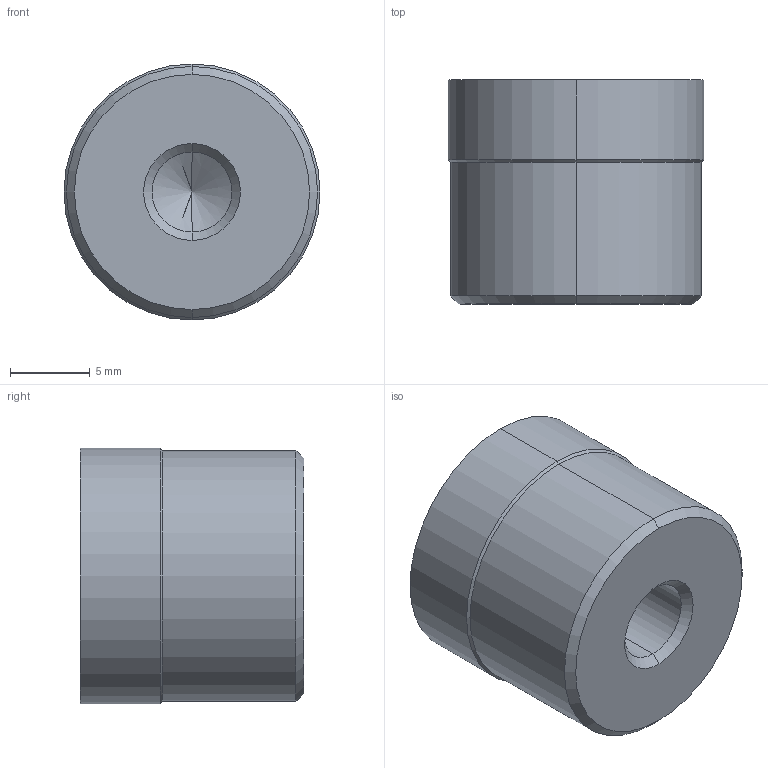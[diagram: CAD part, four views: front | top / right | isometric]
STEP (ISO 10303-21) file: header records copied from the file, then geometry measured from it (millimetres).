
FILE_DESCRIPTION (( 'STEP AP203' ), '1' );
FILE_NAME ('DAP-16N.STEP', '2016-01-11T15:26:50', ( 'Balzi' ), ( '' ), 'SwSTEP 2.0', 'SolidWorks 2015', '' );
FILE_SCHEMA (( 'CONFIG_CONTROL_DESIGN' ));
Length unit declared in the file: millimetre
Products named in the file (1): DAP-16N
Bounding box: 16 x 14 x 16 mm (x, y, z)
Volume: 2509.5 mm3; surface area: 1277.7 mm2
Topology: 1 solids, 1 shells, 96 faces, 266 edges, 173 vertices
Faces by surface type: cylinder 48, plane 40, cone 8
Entity records: 3153 total; most frequent: DIRECTION 558, CARTESIAN_POINT 534, ORIENTED_EDGE 528, EDGE_CURVE 264, AXIS2_PLACEMENT_3D 197, VERTEX_POINT 173, VECTOR 164, LINE 164
